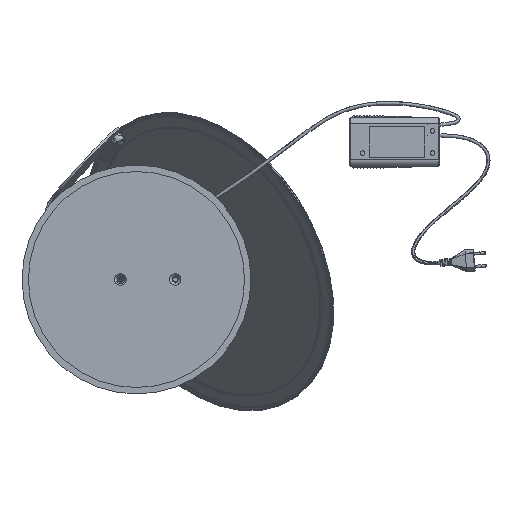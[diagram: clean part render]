
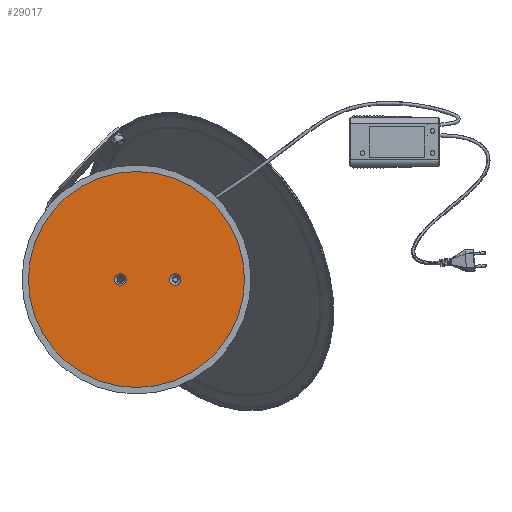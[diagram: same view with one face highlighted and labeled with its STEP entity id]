
A CAD part, front view. The second image highlights one B-rep face of the part: STEP entity #29017.
In plain terms, the highlighted planar face has unit normal (0, -1, 0).
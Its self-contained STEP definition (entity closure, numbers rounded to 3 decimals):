
#305 = VERTEX_POINT ( 'NONE', #5763 ) ;
#1390 = CARTESIAN_POINT ( 'NONE',  ( -25., 0., 0. ) ) ;
#1914 = DIRECTION ( 'NONE',  ( 0., 0., -1. ) ) ;
#2571 = AXIS2_PLACEMENT_3D ( 'NONE', #11401, #6533, #22089 ) ;
#2884 = CARTESIAN_POINT ( 'NONE',  ( 60., 0., -8.96 ) ) ;
#4711 = CARTESIAN_POINT ( 'NONE',  ( 0., 0., 0. ) ) ;
#4769 = VERTEX_POINT ( 'NONE', #48637 ) ;
#5056 = ORIENTED_EDGE ( 'NONE', *, *, #39025, .F. ) ;
#5763 = CARTESIAN_POINT ( 'NONE',  ( 0., 0., -167.5 ) ) ;
#6320 = DIRECTION ( 'NONE',  ( 0., 0., -1. ) ) ;
#6533 = DIRECTION ( 'NONE',  ( 0., -1., 0. ) ) ;
#9089 = EDGE_LOOP ( 'NONE', ( #5056, #15273 ) ) ;
#10578 = ORIENTED_EDGE ( 'NONE', *, *, #62339, .F. ) ;
#10951 = EDGE_CURVE ( 'NONE', #4769, #32924, #42254, .T. ) ;
#11248 = CARTESIAN_POINT ( 'NONE',  ( 60., 0., 8.96 ) ) ;
#11401 = CARTESIAN_POINT ( 'NONE',  ( 60., 0., 0. ) ) ;
#12538 = ORIENTED_EDGE ( 'NONE', *, *, #28683, .F. ) ;
#14887 = CARTESIAN_POINT ( 'NONE',  ( -25., 0., 0. ) ) ;
#15273 = ORIENTED_EDGE ( 'NONE', *, *, #36229, .F. ) ;
#15880 = DIRECTION ( 'NONE',  ( 0., 1., 0. ) ) ;
#16017 = DIRECTION ( 'NONE',  ( 0., 1., 0. ) ) ;
#18534 = AXIS2_PLACEMENT_3D ( 'NONE', #14887, #54351, #6320 ) ;
#20666 = FACE_BOUND ( 'NONE', #34427, .T. ) ;
#21148 = DIRECTION ( 'NONE',  ( 0., -1., 0. ) ) ;
#22089 = DIRECTION ( 'NONE',  ( 0., 0., -1. ) ) ;
#24262 = FACE_OUTER_BOUND ( 'NONE', #9089, .T. ) ;
#25180 = AXIS2_PLACEMENT_3D ( 'NONE', #1390, #21148, #56401 ) ;
#27174 = CARTESIAN_POINT ( 'NONE',  ( 0., 0., 0. ) ) ;
#27230 = EDGE_CURVE ( 'NONE', #32924, #4769, #27249, .T. ) ;
#27249 = CIRCLE ( 'NONE', #25180, 8.96 ) ;
#27420 = VERTEX_POINT ( 'NONE', #39246 ) ;
#28683 = EDGE_CURVE ( 'NONE', #29127, #35352, #55275, .T. ) ;
#29017 = ADVANCED_FACE ( 'NONE', ( #24262, #34596, #20666 ), #40401, .F. ) ;
#29127 = VERTEX_POINT ( 'NONE', #11248 ) ;
#29753 = CARTESIAN_POINT ( 'NONE',  ( 0., 0., 0. ) ) ;
#31080 = CIRCLE ( 'NONE', #33167, 167.5 ) ;
#32924 = VERTEX_POINT ( 'NONE', #56523 ) ;
#33167 = AXIS2_PLACEMENT_3D ( 'NONE', #27174, #15880, #35622 ) ;
#33354 = AXIS2_PLACEMENT_3D ( 'NONE', #4711, #16017, #54843 ) ;
#34427 = EDGE_LOOP ( 'NONE', ( #48133, #40819 ) ) ;
#34596 = FACE_BOUND ( 'NONE', #61174, .T. ) ;
#35352 = VERTEX_POINT ( 'NONE', #2884 ) ;
#35540 = DIRECTION ( 'NONE',  ( 0., 1., 0. ) ) ;
#35622 = DIRECTION ( 'NONE',  ( 0., 0., 1. ) ) ;
#36229 = EDGE_CURVE ( 'NONE', #27420, #305, #31080, .T. ) ;
#39025 = EDGE_CURVE ( 'NONE', #305, #27420, #41603, .T. ) ;
#39246 = CARTESIAN_POINT ( 'NONE',  ( 0., 0., 167.5 ) ) ;
#40401 = PLANE ( 'NONE',  #51120 ) ;
#40819 = ORIENTED_EDGE ( 'NONE', *, *, #10951, .F. ) ;
#41603 = CIRCLE ( 'NONE', #33354, 167.5 ) ;
#42254 = CIRCLE ( 'NONE', #18534, 8.96 ) ;
#46254 = CARTESIAN_POINT ( 'NONE',  ( 60., 0., 0. ) ) ;
#47214 = DIRECTION ( 'NONE',  ( 0., -1., 0. ) ) ;
#48133 = ORIENTED_EDGE ( 'NONE', *, *, #27230, .F. ) ;
#48637 = CARTESIAN_POINT ( 'NONE',  ( -25., 0., 8.96 ) ) ;
#51120 = AXIS2_PLACEMENT_3D ( 'NONE', #29753, #35540, #55265 ) ;
#54351 = DIRECTION ( 'NONE',  ( 0., -1., 0. ) ) ;
#54843 = DIRECTION ( 'NONE',  ( 0., 0., 1. ) ) ;
#55265 = DIRECTION ( 'NONE',  ( 1., 0., 0. ) ) ;
#55275 = CIRCLE ( 'NONE', #2571, 8.96 ) ;
#56401 = DIRECTION ( 'NONE',  ( 0., 0., -1. ) ) ;
#56523 = CARTESIAN_POINT ( 'NONE',  ( -25., 0., -8.96 ) ) ;
#58558 = AXIS2_PLACEMENT_3D ( 'NONE', #46254, #47214, #1914 ) ;
#61174 = EDGE_LOOP ( 'NONE', ( #10578, #12538 ) ) ;
#61636 = CIRCLE ( 'NONE', #58558, 8.96 ) ;
#62339 = EDGE_CURVE ( 'NONE', #35352, #29127, #61636, .T. ) ;
